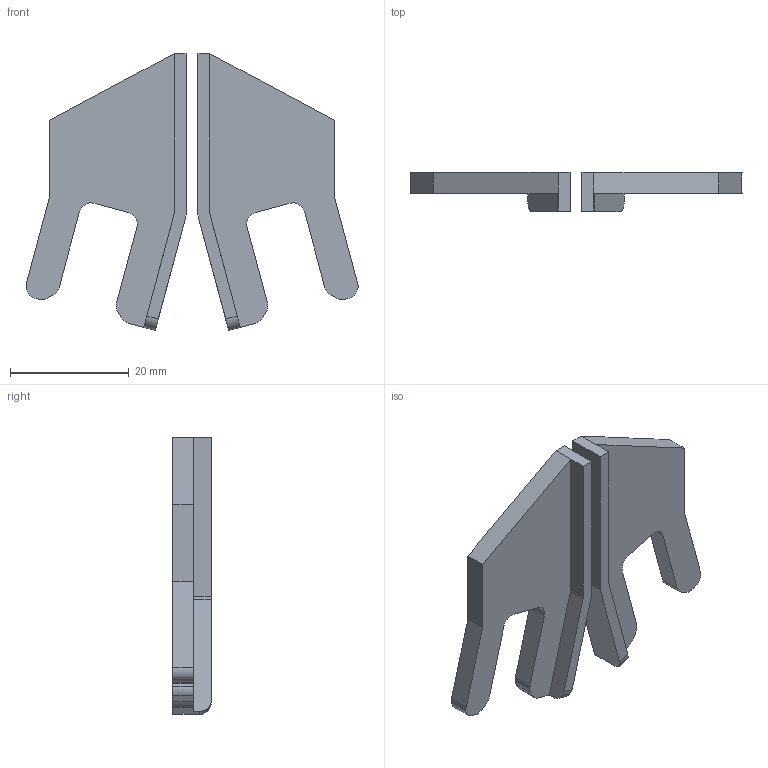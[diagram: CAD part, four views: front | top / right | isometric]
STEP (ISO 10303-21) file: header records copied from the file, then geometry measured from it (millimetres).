
FILE_DESCRIPTION (( 'STEP AP203' ), '1' );
FILE_NAME ('E46 CORNER LIGHT TABS CRACKED.STEP', '2025-12-16T02:24:51', ( '' ), ( '' ), 'SwSTEP 2.0', 'SolidWorks 2026', '' );
FILE_SCHEMA (( 'CONFIG_CONTROL_DESIGN' ));
Length unit declared in the file: millimetre
Products named in the file (1): E46 CORNER LIGHT TABS CRACKED
Bounding box: 55.89 x 6.5 x 46.61 mm (x, y, z)
Volume: 5577.1 mm3; surface area: 4545.7 mm2
Topology: 2 solids, 2 shells, 58 faces, 160 edges, 106 vertices
Faces by surface type: plane 36, cylinder 22
Entity records: 1927 total; most frequent: CARTESIAN_POINT 325, DIRECTION 322, ORIENTED_EDGE 320, EDGE_CURVE 160, LINE 116, VECTOR 116, VERTEX_POINT 106, AXIS2_PLACEMENT_3D 103
